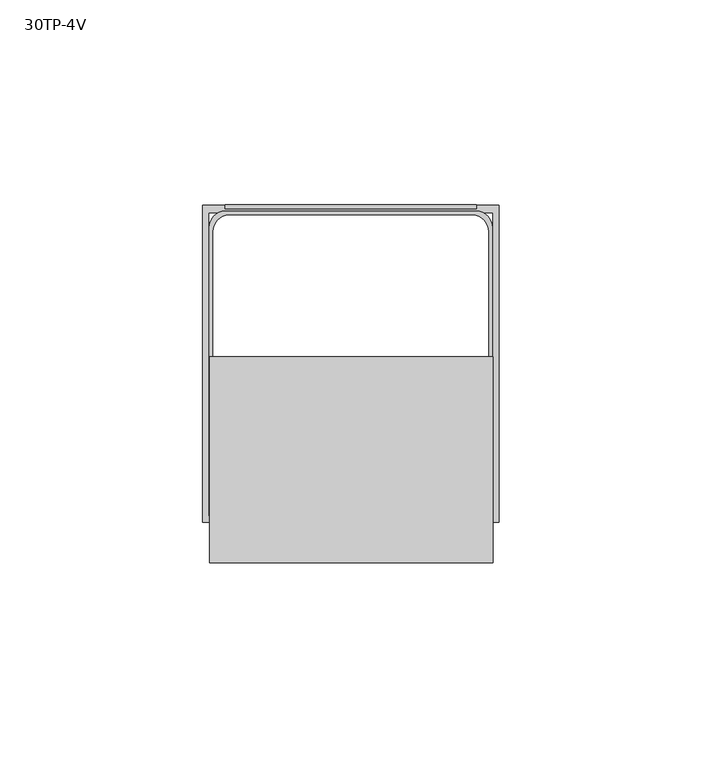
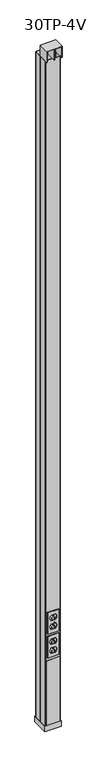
"""IFC4 building model written with IfcOpenShell, lengths in millimetres: proxy geometry, Vertical_Drop_Pole-Wiremold-Tele_Power_Pole-4V : 30TP-4V."""

from ifc_helpers import new_model, si_unit, point, frame, frame_2d, origin, origin_with_axes, place, context, project, spatial, polyline, circle_curve, trimmed, segment, composite_curve, outline, extrude, source, transform, mapped, element, save


def proxy_30tp_4v_2e4d9ae4(model_context):
    return source(origin(), model_context, "Body", "SweptSolid", [
        extrude(outline(polyline([(30.9994141, 3.0842362), (-31.0005859, 3.0842362), (-31.0005859, 4.0842362), (30.9994141, 4.0842362), (30.9994141, 3.0842362)])), frame((0.0, 0.0, 25.4), z_axis=(0.0, 0.0, 1.0), x_axis=(1.0, 0.0, 0.0)), (0.0, 0.0, 1.0), 306.3875),
        extrude(outline(polyline([(-31.0005859, 79.5967362), (30.9994141, 79.5967362), (30.9994141, 78.5967362), (-31.0005859, 78.5967362), (-31.0005859, 79.5967362)])), frame((0.0, 0.0, 25.4), z_axis=(0.0, 0.0, 1.0), x_axis=(1.0, 0.0, 0.0)), (0.0, 0.0, 1.0), 306.3875),
        extrude(outline(polyline([(-0.8191406, -9.1282089), (-0.8191406, 41.6717911), (0.9667969, 41.6717911), (0.9667969, -9.1282089), (-0.8191406, -9.1282089)])), frame((0.0, 0.0, 3175.0), z_axis=(0.0, 0.0, 1.0), x_axis=(1.0, 0.0, 0.0)), (0.0, 0.0, 1.0), 50.8),
        extrude(outline(polyline([(-23.8231255, 40.0842911), (23.9707817, 40.0842911), (23.9707817, 38.4967911), (-23.8231255, 38.4967911), (-23.8231255, 40.0842911)])), frame((0.0, 0.0, 3148.0125), z_axis=(0.0, 0.0, 1.0), x_axis=(1.0, 0.0, 0.0)), (0.0, 0.0, 1.0), 26.9875),
        extrude(outline(polyline([(-33.2636719, 41.6717911), (33.4113281, 41.6717911), (33.4113281, 40.0842911), (-33.2636719, 40.0842911), (-33.2636719, 41.6717911)])), frame((0.0, 0.0, 3175.0), z_axis=(0.0, 0.0, 1.0), x_axis=(1.0, 0.0, 0.0)), (0.0, 0.0, 1.0), 50.8),
        extrude(outline(polyline([(-34.8511719, -9.1282089), (-34.8511719, 41.6717911), (-33.2636719, 41.6717911), (-33.2636719, -9.1282089), (-34.8511719, -9.1282089)])), frame((0.0, 0.0, 3175.0), z_axis=(0.0, 0.0, 1.0), x_axis=(1.0, 0.0, 0.0)), (0.0, 0.0, 1.0), 50.8),
        extrude(outline(polyline([(33.4113281, -9.1282089), (33.4113281, 41.6717911), (34.9988281, 41.6717911), (34.9988281, -9.1282089), (33.4113281, -9.1282089)])), frame((0.0, 0.0, 3175.0), z_axis=(0.0, 0.0, 1.0), x_axis=(1.0, 0.0, 0.0)), (0.0, 0.0, 1.0), 50.8),
        extrude(outline(polyline([(-34.8511719, -9.1282089), (-34.8511719, 41.6717911), (34.9988281, 41.6717911), (34.9988281, -9.1282089), (-34.8511719, -9.1282089)])), frame((0.0, 0.0, 3225.8), z_axis=(0.0, 0.0, 1.0), x_axis=(1.0, 0.0, 0.0)), (0.0, 0.0, 1.0), 1.5875),
        extrude(outline(polyline([(560.1033963, 25.4), (560.1033963, -25.4), (458.5033963, -25.4), (458.5033963, 25.4), (560.1033963, 25.4)]), holes=[composite_curve([segment(polyline([(543.1865995, -7.9339585), (543.1865995, 8.0597711)]), True, "CONTINUOUS"), segment(trimmed(circle_curve(frame_2d((531.1153276, 0.9957546)), 13.9862766), [point((543.1865995, 8.0597711))], [point((531.1153276, 14.9820313))], True, "CARTESIAN"), True, "CONTINUOUS"), segment(polyline([(531.1153276, 14.9820313), (529.0278245, 14.9820313)]), True, "CONTINUOUS"), segment(trimmed(circle_curve(frame_2d((529.0278245, 0.9820313)), 14.0), [point((529.0278245, 14.9820313))], [point((517.191287, 8.4584194))], True, "CARTESIAN"), True, "CONTINUOUS"), segment(polyline([(517.191287, 8.4584194), (517.191287, -8.3446349)]), True, "CONTINUOUS"), segment(trimmed(circle_curve(frame_2d((529.1556013, -0.8801276)), 14.1019036), [point((517.191287, -8.3446349))], [point((529.1556013, -14.9820312))], True, "CARTESIAN"), True, "CONTINUOUS"), segment(polyline([(529.1556013, -14.9820312), (531.0731263, -14.9820312)]), True, "CONTINUOUS"), segment(trimmed(circle_curve(frame_2d((531.0731263, -1.0483243)), 13.933707), [point((531.0731263, -14.9820312))], [point((543.1865995, -7.9339585))], True, "CARTESIAN"), True, "CONTINUOUS")], self_intersect=False), composite_curve([segment(polyline([(501.4155057, -8.6075876), (501.4155057, 8.7168414)]), True, "CONTINUOUS"), segment(trimmed(circle_curve(frame_2d((489.7577624, 1.0035576)), 13.9784736), [point((501.4155057, 8.7168414))], [point((489.7577624, 14.9820313))], True, "CARTESIAN"), True, "CONTINUOUS"), segment(polyline([(489.7577624, 14.9820313), (487.6633022, 14.9820313)]), True, "CONTINUOUS"), segment(trimmed(circle_curve(frame_2d((487.6633022, 0.9731741)), 14.0088572), [point((487.6633022, 14.9820313))], [point((475.4201932, 7.7815778))], True, "CARTESIAN"), True, "CONTINUOUS"), segment(polyline([(475.4201932, 7.7815778), (475.4201932, -7.6594621)]), True, "CONTINUOUS"), segment(trimmed(circle_curve(frame_2d((487.7909059, -0.8712357)), 14.1107955), [point((475.4201932, -7.6594621))], [point((487.7909059, -14.9820312))], True, "CARTESIAN"), True, "CONTINUOUS"), segment(polyline([(487.7909059, -14.9820312), (489.7155811, -14.9820312)]), True, "CONTINUOUS"), segment(trimmed(circle_curve(frame_2d((489.7155811, -1.0575402)), 13.9244911), [point((489.7155811, -14.9820312))], [point((501.4155057, -8.6075876))], True, "CARTESIAN"), True, "CONTINUOUS")], self_intersect=False)]), frame((0.0, -0.0907638, 0.0), z_axis=(0.0, 1.0, 0.0), x_axis=(0.0, 0.0, 1.0)), (0.0, 0.0, 1.0), 3.175),
        extrude(outline(polyline([(447.4405057, 25.4), (447.4405057, -25.4), (345.8405057, -25.4), (345.8405057, 25.4), (447.4405057, 25.4)]), holes=[composite_curve([segment(polyline([(430.5237088, -7.9339585), (430.5237088, 8.0597711)]), True, "CONTINUOUS"), segment(trimmed(circle_curve(frame_2d((418.4524369, 0.9957546)), 13.9862766), [point((430.5237088, 8.0597711))], [point((418.4524369, 14.9820313))], True, "CARTESIAN"), True, "CONTINUOUS"), segment(polyline([(418.4524369, 14.9820313), (416.3649338, 14.9820313)]), True, "CONTINUOUS"), segment(trimmed(circle_curve(frame_2d((416.3649338, 0.9820313)), 14.0), [point((416.3649338, 14.9820313))], [point((404.5283963, 8.4584194))], True, "CARTESIAN"), True, "CONTINUOUS"), segment(polyline([(404.5283963, 8.4584194), (404.5283963, -8.3446349)]), True, "CONTINUOUS"), segment(trimmed(circle_curve(frame_2d((416.4927107, -0.8801276)), 14.1019036), [point((404.5283963, -8.3446349))], [point((416.4927107, -14.9820312))], True, "CARTESIAN"), True, "CONTINUOUS"), segment(polyline([(416.4927107, -14.9820312), (418.4102357, -14.9820312)]), True, "CONTINUOUS"), segment(trimmed(circle_curve(frame_2d((418.4102357, -1.0483243)), 13.933707), [point((418.4102357, -14.9820312))], [point((430.5237088, -7.9339585))], True, "CARTESIAN"), True, "CONTINUOUS")], self_intersect=False), composite_curve([segment(polyline([(388.7526151, -8.6075876), (388.7526151, 8.7168414)]), True, "CONTINUOUS"), segment(trimmed(circle_curve(frame_2d((377.0948718, 1.0035576)), 13.9784736), [point((388.7526151, 8.7168414))], [point((377.0948718, 14.9820313))], True, "CARTESIAN"), True, "CONTINUOUS"), segment(polyline([(377.0948718, 14.9820313), (375.0004116, 14.9820313)]), True, "CONTINUOUS"), segment(trimmed(circle_curve(frame_2d((375.0004116, 0.9731741)), 14.0088572), [point((375.0004116, 14.9820313))], [point((362.7573026, 7.7815778))], True, "CARTESIAN"), True, "CONTINUOUS"), segment(polyline([(362.7573026, 7.7815778), (362.7573026, -7.6594621)]), True, "CONTINUOUS"), segment(trimmed(circle_curve(frame_2d((375.1280153, -0.8712357)), 14.1107955), [point((362.7573026, -7.6594621))], [point((375.1280153, -14.9820312))], True, "CARTESIAN"), True, "CONTINUOUS"), segment(polyline([(375.1280153, -14.9820312), (377.0526905, -14.9820312)]), True, "CONTINUOUS"), segment(trimmed(circle_curve(frame_2d((377.0526905, -1.0575402)), 13.9244911), [point((377.0526905, -14.9820312))], [point((388.7526151, -8.6075876))], True, "CARTESIAN"), True, "CONTINUOUS")], self_intersect=False)]), frame((0.0, -0.0907638, 0.0), z_axis=(0.0, 1.0, 0.0), x_axis=(0.0, 0.0, 1.0)), (0.0, 0.0, 1.0), 3.175),
        extrude(outline(composite_curve([segment(trimmed(circle_curve(frame_2d((530.9960144, -1.041191)), 13.931831), [point((543.1368495, -7.874641))], [point((530.9960144, -14.973022))], False, "CARTESIAN"), True, "CONTINUOUS"), segment(polyline([(530.9960144, -14.973022), (529.0793217, -14.973022)]), True, "CONTINUOUS"), segment(trimmed(circle_curve(frame_2d((529.0793217, -0.8694684)), 14.1035536), [point((529.0793217, -14.973022))], [point((517.1416776, -8.3796533))], False, "CARTESIAN"), True, "CONTINUOUS"), segment(polyline([(517.1416776, -8.3796533), (517.1416776, 8.5109299)]), True, "CONTINUOUS"), segment(trimmed(circle_curve(frame_2d((528.9515186, 0.9894138)), 14.0016266), [point((517.1416776, 8.5109299))], [point((528.9515186, 14.9910405))], False, "CARTESIAN"), True, "CONTINUOUS"), segment(polyline([(528.9515186, 14.9910405), (531.0381621, 14.9910405)]), True, "CONTINUOUS"), segment(trimmed(circle_curve(frame_2d((531.0381621, 1.0065929)), 13.9844475), [point((531.0381621, 14.9910405))], [point((543.1368495, 8.0199042))], False, "CARTESIAN"), True, "CONTINUOUS"), segment(polyline([(543.1368495, 8.0199042), (543.1368495, -7.874641)]), True, "CONTINUOUS")], self_intersect=False), holes=[polyline([(529.2416776, -5.4909908), (521.3416776, -5.4909908), (521.3416776, -7.0909908), (529.2416776, -7.0909908), (529.2416776, -5.4909908)]), polyline([(522.1416776, 5.5090092), (528.4416776, 5.5090092), (528.4416776, 7.1090092), (522.1416776, 7.1090092), (522.1416776, 5.5090092)]), composite_curve([segment(polyline([(539.7368495, 2.4), (536.536709, 2.4)]), True, "CONTINUOUS"), segment(trimmed(circle_curve(frame_2d((536.536709, 0.0)), 2.4), [point((536.536709, 2.4))], [point((536.536709, -2.4))], True, "CARTESIAN"), True, "CONTINUOUS"), segment(polyline([(536.536709, -2.4), (539.7368495, -2.4), (539.7368495, 2.4)]), True, "CONTINUOUS")], self_intersect=False)]), frame((0.0, 1.3967362, 0.0), z_axis=(0.0, 1.0, 0.0), x_axis=(0.0, 0.0, 1.0)), (0.0, 0.0, 1.0), 19.89375),
        extrude(outline(composite_curve([segment(polyline([(501.3658963, 8.6933005), (501.3658963, -8.5651486)]), True, "CONTINUOUS"), segment(trimmed(circle_curve(frame_2d((489.6417726, -1.0436022)), 13.9294199), [point((501.3658963, -8.5651486))], [point((489.6417726, -14.973022))], False, "CARTESIAN"), True, "CONTINUOUS"), segment(polyline([(489.6417726, -14.973022), (487.7134744, -14.973022)]), True, "CONTINUOUS"), segment(trimmed(circle_curve(frame_2d((487.7134744, -0.8665933)), 14.1064287), [point((487.7134744, -14.973022))], [point((475.3707244, -7.6965167))], False, "CARTESIAN"), True, "CONTINUOUS"), segment(polyline([(475.3707244, -7.6965167), (475.3707244, 7.8360196)]), True, "CONTINUOUS"), segment(trimmed(circle_curve(frame_2d((487.5859315, 0.9864964)), 14.004544), [point((475.3707244, 7.8360196))], [point((487.5859315, 14.9910405))], False, "CARTESIAN"), True, "CONTINUOUS"), segment(polyline([(487.5859315, 14.9910405), (489.6840838, 14.9910405)]), True, "CONTINUOUS"), segment(trimmed(circle_curve(frame_2d((489.6840838, 1.0077484)), 13.983292), [point((489.6840838, 14.9910405))], [point((501.3658963, 8.6933005))], False, "CARTESIAN"), True, "CONTINUOUS")], self_intersect=False), holes=[polyline([(487.4707244, -5.4909908), (479.5707244, -5.4909908), (479.5707244, -7.0909908), (487.4707244, -7.0909908), (487.4707244, -5.4909908)]), polyline([(480.3707244, 5.5090092), (486.6707244, 5.5090092), (486.6707244, 7.1090092), (480.3707244, 7.1090092), (480.3707244, 5.5090092)]), composite_curve([segment(polyline([(497.9657558, 2.4), (494.7657558, 2.4)]), True, "CONTINUOUS"), segment(trimmed(circle_curve(frame_2d((494.7657558, 0.0)), 2.4), [point((494.7657558, 2.4))], [point((494.7657558, -2.4))], True, "CARTESIAN"), True, "CONTINUOUS"), segment(polyline([(494.7657558, -2.4), (497.9657558, -2.4), (497.9657558, 2.4)]), True, "CONTINUOUS")], self_intersect=False)]), frame((0.0, 1.3967362, 0.0), z_axis=(0.0, 1.0, 0.0), x_axis=(0.0, 0.0, 1.0)), (0.0, 0.0, 1.0), 19.89375),
        extrude(outline(composite_curve([segment(trimmed(circle_curve(frame_2d((418.3827332, -1.041191)), 13.931831), [point((430.5235683, -7.874641))], [point((418.3827332, -14.973022))], False, "CARTESIAN"), True, "CONTINUOUS"), segment(polyline([(418.3827332, -14.973022), (416.4660405, -14.973022)]), True, "CONTINUOUS"), segment(trimmed(circle_curve(frame_2d((416.4660405, -0.8694684)), 14.1035536), [point((416.4660405, -14.973022))], [point((404.5283963, -8.3796533))], False, "CARTESIAN"), True, "CONTINUOUS"), segment(polyline([(404.5283963, -8.3796533), (404.5283963, 8.5109299)]), True, "CONTINUOUS"), segment(trimmed(circle_curve(frame_2d((416.3382373, 0.9894138)), 14.0016266), [point((404.5283963, 8.5109299))], [point((416.3382373, 14.9910405))], False, "CARTESIAN"), True, "CONTINUOUS"), segment(polyline([(416.3382373, 14.9910405), (418.4248808, 14.9910405)]), True, "CONTINUOUS"), segment(trimmed(circle_curve(frame_2d((418.4248808, 1.0065929)), 13.9844475), [point((418.4248808, 14.9910405))], [point((430.5235683, 8.0199042))], False, "CARTESIAN"), True, "CONTINUOUS"), segment(polyline([(430.5235683, 8.0199042), (430.5235683, -7.874641)]), True, "CONTINUOUS")], self_intersect=False), holes=[polyline([(416.6283963, -5.4909908), (408.7283963, -5.4909908), (408.7283963, -7.0909908), (416.6283963, -7.0909908), (416.6283963, -5.4909908)]), polyline([(409.5283963, 5.5090092), (415.8283963, 5.5090092), (415.8283963, 7.1090092), (409.5283963, 7.1090092), (409.5283963, 5.5090092)]), composite_curve([segment(polyline([(427.1235683, 2.4), (423.9234278, 2.4)]), True, "CONTINUOUS"), segment(trimmed(circle_curve(frame_2d((423.9234278, 0.0)), 2.4), [point((423.9234278, 2.4))], [point((423.9234278, -2.4))], True, "CARTESIAN"), True, "CONTINUOUS"), segment(polyline([(423.9234278, -2.4), (427.1235683, -2.4), (427.1235683, 2.4)]), True, "CONTINUOUS")], self_intersect=False)]), frame((0.0, 1.3967362, 0.0), z_axis=(0.0, 1.0, 0.0), x_axis=(0.0, 0.0, 1.0)), (0.0, 0.0, 1.0), 19.89375),
        extrude(outline(composite_curve([segment(polyline([(388.7526151, 8.6933005), (388.7526151, -8.5651486)]), True, "CONTINUOUS"), segment(trimmed(circle_curve(frame_2d((377.0284914, -1.0436022)), 13.9294199), [point((388.7526151, -8.5651486))], [point((377.0284914, -14.973022))], False, "CARTESIAN"), True, "CONTINUOUS"), segment(polyline([(377.0284914, -14.973022), (375.1001931, -14.973022)]), True, "CONTINUOUS"), segment(trimmed(circle_curve(frame_2d((375.1001931, -0.8665933)), 14.1064287), [point((375.1001931, -14.973022))], [point((362.7574431, -7.6965167))], False, "CARTESIAN"), True, "CONTINUOUS"), segment(polyline([(362.7574431, -7.6965167), (362.7574431, 7.8360196)]), True, "CONTINUOUS"), segment(trimmed(circle_curve(frame_2d((374.9726503, 0.9864964)), 14.004544), [point((362.7574431, 7.8360196))], [point((374.9726503, 14.9910405))], False, "CARTESIAN"), True, "CONTINUOUS"), segment(polyline([(374.9726503, 14.9910405), (377.0708025, 14.9910405)]), True, "CONTINUOUS"), segment(trimmed(circle_curve(frame_2d((377.0708025, 1.0077484)), 13.983292), [point((377.0708025, 14.9910405))], [point((388.7526151, 8.6933005))], False, "CARTESIAN"), True, "CONTINUOUS")], self_intersect=False), holes=[polyline([(374.8574431, -5.4909908), (366.9574431, -5.4909908), (366.9574431, -7.0909908), (374.8574431, -7.0909908), (374.8574431, -5.4909908)]), polyline([(367.7574431, 5.5090092), (374.0574431, 5.5090092), (374.0574431, 7.1090092), (367.7574431, 7.1090092), (367.7574431, 5.5090092)]), composite_curve([segment(polyline([(385.3524745, 2.4), (382.1524745, 2.4)]), True, "CONTINUOUS"), segment(trimmed(circle_curve(frame_2d((382.1524745, 0.0)), 2.4), [point((382.1524745, 2.4))], [point((382.1524745, -2.4))], True, "CARTESIAN"), True, "CONTINUOUS"), segment(polyline([(382.1524745, -2.4), (385.3524745, -2.4), (385.3524745, 2.4)]), True, "CONTINUOUS")], self_intersect=False)]), frame((0.0, 1.3967362, 0.0), z_axis=(0.0, 1.0, 0.0), x_axis=(0.0, 0.0, 1.0)), (0.0, 0.0, 1.0), 19.89375),
        extrude(outline(polyline([(-36.5125, 1.4967362), (-36.5125, 79.5967362), (36.5125, 79.5967362), (36.5125, 1.4967362), (-36.5125, 1.4967362)]), holes=[polyline([(34.925, 77.5967362), (-34.925, 77.5967362), (-34.925, 3.0842362), (34.925, 3.0842362), (34.925, 77.5967362)])]), origin_with_axes(), (0.0, 0.0, 1.0), 25.4),
        extrude(outline(composite_curve([segment(polyline([(-34.925, 39.4967362), (-34.925, 73.5967362)]), True, "CONTINUOUS"), segment(trimmed(circle_curve(frame_2d((-30.925, 73.5967362)), 4.0), [point((-34.925, 73.5967362))], [point((-30.925, 77.5967362))], False, "CARTESIAN"), True, "CONTINUOUS"), segment(polyline([(-30.925, 77.5967362), (30.925, 77.5967362)]), True, "CONTINUOUS"), segment(trimmed(circle_curve(frame_2d((30.925, 73.5967362)), 4.0), [point((30.925, 77.5967362))], [point((34.925, 73.5967362))], False, "CARTESIAN"), True, "CONTINUOUS"), segment(polyline([(34.925, 73.5967362), (34.925, 39.4967362), (-34.925, 39.4967362)]), True, "CONTINUOUS")], self_intersect=False), holes=[composite_curve([segment(trimmed(circle_curve(frame_2d((29.925, 72.5967362)), 4.0), [point((33.925, 72.5967362))], [point((29.925, 76.5967362))], True, "CARTESIAN"), True, "CONTINUOUS"), segment(polyline([(29.925, 76.5967362), (-29.925, 76.5967362)]), True, "CONTINUOUS"), segment(trimmed(circle_curve(frame_2d((-29.925, 72.5967362)), 4.0), [point((-29.925, 76.5967362))], [point((-33.925, 72.5967362))], True, "CARTESIAN"), True, "CONTINUOUS"), segment(polyline([(-33.925, 72.5967362), (-33.925, 40.4967362), (33.925, 40.4967362), (33.925, 72.5967362)]), True, "CONTINUOUS")], self_intersect=False)]), origin_with_axes(), (0.0, 0.0, 1.0), 3175.0),
        extrude(outline(composite_curve([segment(polyline([(34.925, 39.4967362), (34.925, 7.0842362)]), True, "CONTINUOUS"), segment(trimmed(circle_curve(frame_2d((30.925, 7.0842362)), 4.0), [point((34.925, 7.0842362))], [point((30.925, 3.0842362))], False, "CARTESIAN"), True, "CONTINUOUS"), segment(polyline([(30.925, 3.0842362), (-30.925, 3.0842362)]), True, "CONTINUOUS"), segment(trimmed(circle_curve(frame_2d((-30.925, 7.0842362)), 4.0), [point((-30.925, 3.0842362))], [point((-34.925, 7.0842362))], False, "CARTESIAN"), True, "CONTINUOUS"), segment(polyline([(-34.925, 7.0842362), (-34.925, 39.4967362), (34.925, 39.4967362)]), True, "CONTINUOUS")], self_intersect=False), holes=[composite_curve([segment(trimmed(circle_curve(frame_2d((-29.925, 8.0842362)), 4.0), [point((-33.925, 8.0842362))], [point((-29.925, 4.0842362))], True, "CARTESIAN"), True, "CONTINUOUS"), segment(polyline([(-29.925, 4.0842362), (29.925, 4.0842362)]), True, "CONTINUOUS"), segment(trimmed(circle_curve(frame_2d((29.925, 8.0842362)), 4.0), [point((29.925, 4.0842362))], [point((33.925, 8.0842362))], True, "CARTESIAN"), True, "CONTINUOUS"), segment(polyline([(33.925, 8.0842362), (33.925, 38.4967362), (-33.925, 38.4967362), (-33.925, 8.0842362)]), True, "CONTINUOUS")], self_intersect=False)]), origin_with_axes(), (0.0, 0.0, 1.0), 3175.0),
    ])


if __name__ == "__main__":
    model = new_model("IFC4")
    model_context = context("Model", 3, world=origin())
    ifc_project = project(units=[si_unit("LENGTHUNIT", "METRE", prefix="MILLI")], contexts=[model_context])
    site = spatial("IfcSite", under=ifc_project)
    building = spatial("IfcBuilding", under=site)
    placement = place(None, origin())
    proxy_30tp_4v_shape = proxy_30tp_4v_2e4d9ae4(model_context)
    element("IfcBuildingElementProxy", 1, Name="Vertical_Drop_Pole-Wiremold-Tele_Power_Pole-4V : 30TP-4V", ObjectType="Vertical_Drop_Pole-Wiremold-Tele_Power_Pole-4V : 30TP-4V", at=placement, inside=building, context=model_context, shape_type="MappedRepresentation", body=[
        mapped(proxy_30tp_4v_shape, transform((0.0, 0.0, 0.0), x_axis=(1.0, 0.0, 0.0), y_axis=(0.0, 1.0, 0.0), z_axis=(0.0, 0.0, 1.0))),
    ])
    save(model, "model.ifc")
